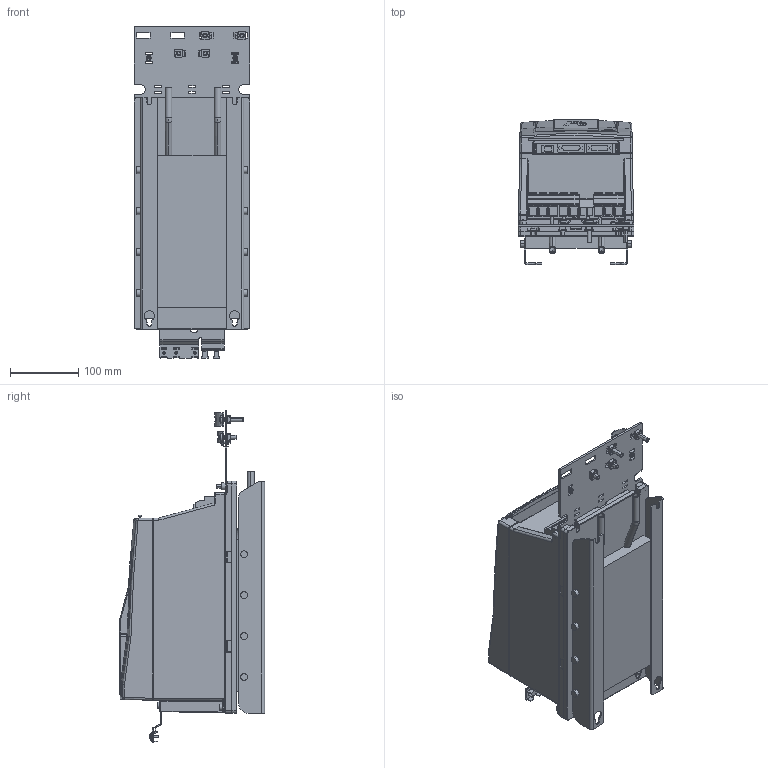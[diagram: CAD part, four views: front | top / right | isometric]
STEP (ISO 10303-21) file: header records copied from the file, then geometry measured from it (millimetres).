
FILE_DESCRIPTION (( 'STEP AP214' ), '1' );
FILE_NAME ('F6-3 TW0-A011.STEP', '2024-08-27T09:50:10', ( '' ), ( '' ), 'SwSTEP 2.0', 'SolidWorks 2022', '' );
FILE_SCHEMA (( 'AUTOMOTIVE_DESIGN' ));
Length unit declared in the file: millimetre
Products named in the file (13): 10059764_000_Blindabdeckung (Kundenmodell); Kundenmodell^10047114_000; Kundenmodell^10059764_000; 10047114_000_Kundenmodell; 10044643_000_Kundenmodell; 10068344_000_Leistungsteil TR0 (Kundenmodell); F6-3 TW0-A011; Kundenmodell^10040482_000; 10061030_000_Kundenmodell; Kundenmodell^10044643_000; Kundenmodell^10061030_000; Kundenmodell^10068344_000; 10040482_000_Kundenmodell
Assembly tree (12 placements, depth 4):
  F6-3 TW0-A011
    10068344_000_Leistungsteil TR0 (Kundenmodell)
      Kundenmodell^10068344_000
    10040482_000_Kundenmodell
      Kundenmodell^10040482_000
    10044643_000_Kundenmodell
      10059764_000_Blindabdeckung (Kundenmodell)
        Kundenmodell^10059764_000
      Kundenmodell^10044643_000
    10061030_000_Kundenmodell
      Kundenmodell^10061030_000
    10047114_000_Kundenmodell
      Kundenmodell^10047114_000
Bounding box: 170 x 212.9 x 486.8 mm (x, y, z)
Volume: 8140905.1 mm3; surface area: 704676.3 mm2
Topology: 16 solids, 21 shells, 3250 faces, 8510 edges, 5379 vertices
Faces by surface type: plane 1504, cylinder 1092, bspline 372, cone 119, torus 109, sphere 54
Entity records: 113761 total; most frequent: CARTESIAN_POINT 31790, ORIENTED_EDGE 16900, DIRECTION 15413, EDGE_CURVE 8450, VERTEX_POINT 5379, AXIS2_PLACEMENT_3D 5351, VECTOR 4711, LINE 4711
